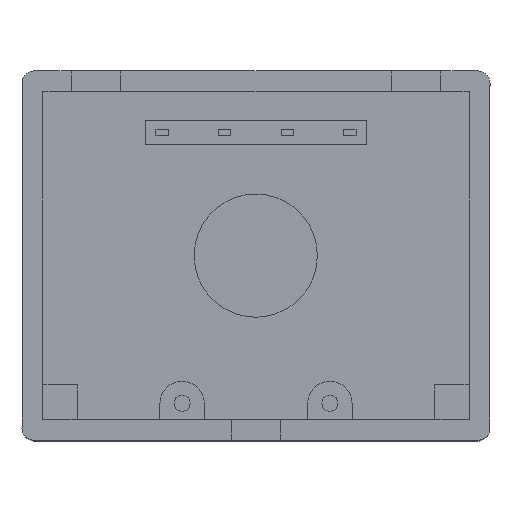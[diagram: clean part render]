
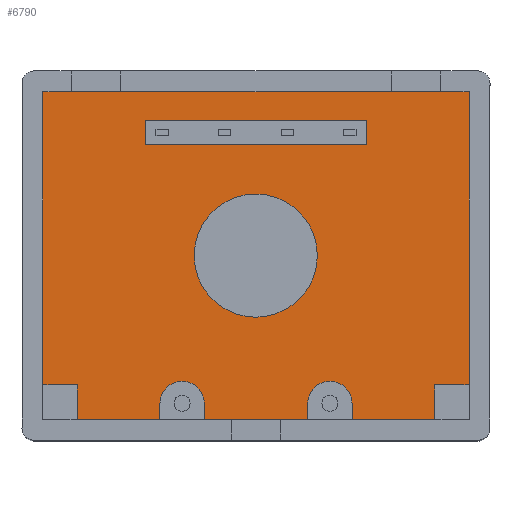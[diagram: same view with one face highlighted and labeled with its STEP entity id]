
A CAD part, top view. The second image highlights one B-rep face of the part: STEP entity #6790.
In plain terms, the highlighted planar face has unit normal (0, 0, 1).
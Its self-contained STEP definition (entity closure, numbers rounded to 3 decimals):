
#120=CARTESIAN_POINT('',(7.4,1.396,19.));
#130=VERTEX_POINT('',#120);
#290=CARTESIAN_POINT('',(5.6,1.396,19.));
#300=VERTEX_POINT('',#290);
#330=CARTESIAN_POINT('',(6.5,1.396,19.));
#340=DIRECTION('',(0.,0.,1.));
#350=DIRECTION('',(1.,0.,0.));
#360=AXIS2_PLACEMENT_3D('',#330,#340,#350);
#370=CIRCLE('',#360,0.9);
#380=EDGE_CURVE('',#130,#300,#370,.T.);
#3560=CARTESIAN_POINT('',(7.4,0.746,19.));
#3570=VERTEX_POINT('',#3560);
#3690=CARTESIAN_POINT('',(7.4,0.,19.));
#3700=DIRECTION('',(-0.,-1.,0.));
#3710=VECTOR('',#3700,1.);
#3720=LINE('',#3690,#3710);
#3730=EDGE_CURVE('',#130,#3570,#3720,.T.);
#3940=CARTESIAN_POINT('',(5.,12.896,19.));
#3950=VERTEX_POINT('',#3940);
#4120=CARTESIAN_POINT('',(5.,11.896,19.));
#4130=VERTEX_POINT('',#4120);
#4160=CARTESIAN_POINT('',(5.,0.,19.));
#4170=DIRECTION('',(0.,1.,0.));
#4180=VECTOR('',#4170,1.);
#4190=LINE('',#4160,#4180);
#4200=EDGE_CURVE('',#4130,#3950,#4190,.T.);
#5190=CARTESIAN_POINT('',(0.74,0.76,19.));
#5200=DIRECTION('',(0.,0.,1.));
#5210=DIRECTION('',(-1.,0.,0.));
#5220=AXIS2_PLACEMENT_3D('',#5190,#5200,#5210);
#5230=PLANE('',#5220);
#5240=CARTESIAN_POINT('',(9.49,7.396,19.));
#5250=DIRECTION('',(0.,0.,-1.));
#5260=DIRECTION('',(1.,0.,0.));
#5270=AXIS2_PLACEMENT_3D('',#5240,#5250,#5260);
#5280=CIRCLE('',#5270,2.5);
#5290=CARTESIAN_POINT('',(11.99,7.396,19.));
#5300=VERTEX_POINT('',#5290);
#5310=CARTESIAN_POINT('',(6.99,7.396,19.));
#5320=VERTEX_POINT('',#5310);
#5330=EDGE_CURVE('',#5300,#5320,#5280,.T.);
#5340=ORIENTED_EDGE('',*,*,#5330,.T.);
#5350=EDGE_CURVE('',#5320,#5300,#5280,.T.);
#5360=ORIENTED_EDGE('',*,*,#5350,.T.);
#5370=EDGE_LOOP('',(#5360,#5340));
#5380=FACE_BOUND('',#5370,.T.);
#5390=CARTESIAN_POINT('',(0.,12.896,19.));
#5400=DIRECTION('',(1.,0.,0.));
#5410=VECTOR('',#5400,1.);
#5420=LINE('',#5390,#5410);
#5430=CARTESIAN_POINT('',(14.,12.896,19.));
#5440=VERTEX_POINT('',#5430);
#5450=EDGE_CURVE('',#3950,#5440,#5420,.T.);
#5460=ORIENTED_EDGE('',*,*,#5450,.T.);
#5470=ORIENTED_EDGE('',*,*,#4200,.T.);
#5480=CARTESIAN_POINT('',(0.,11.896,19.));
#5490=DIRECTION('',(-1.,0.,0.));
#5500=VECTOR('',#5490,1.);
#5510=LINE('',#5480,#5500);
#5520=CARTESIAN_POINT('',(14.,11.896,19.));
#5530=VERTEX_POINT('',#5520);
#5540=EDGE_CURVE('',#5530,#4130,#5510,.T.);
#5550=ORIENTED_EDGE('',*,*,#5540,.T.);
#5560=CARTESIAN_POINT('',(14.,0.,19.));
#5570=DIRECTION('',(0.,-1.,0.));
#5580=VECTOR('',#5570,1.);
#5590=LINE('',#5560,#5580);
#5600=EDGE_CURVE('',#5440,#5530,#5590,.T.);
#5610=ORIENTED_EDGE('',*,*,#5600,.T.);
#5620=EDGE_LOOP('',(#5610,#5550,#5470,#5460));
#5630=FACE_BOUND('',#5620,.T.);
#5640=CARTESIAN_POINT('',(18.15,0.,19.));
#5650=DIRECTION('',(0.,-1.,0.));
#5660=VECTOR('',#5650,1.);
#5670=LINE('',#5640,#5660);
#5680=CARTESIAN_POINT('',(18.15,14.046,19.));
#5690=VERTEX_POINT('',#5680);
#5700=CARTESIAN_POINT('',(18.15,2.146,19.));
#5710=VERTEX_POINT('',#5700);
#5720=EDGE_CURVE('',#5690,#5710,#5670,.T.);
#5730=ORIENTED_EDGE('',*,*,#5720,.F.);
#5740=CARTESIAN_POINT('',(0.,2.146,19.));
#5750=DIRECTION('',(1.,0.,0.));
#5760=VECTOR('',#5750,1.);
#5770=LINE('',#5740,#5760);
#5780=CARTESIAN_POINT('',(16.75,2.146,19.));
#5790=VERTEX_POINT('',#5780);
#5800=EDGE_CURVE('',#5790,#5710,#5770,.T.);
#5810=ORIENTED_EDGE('',*,*,#5800,.T.);
#5820=CARTESIAN_POINT('',(16.75,0.,19.));
#5830=DIRECTION('',(0.,-1.,0.));
#5840=VECTOR('',#5830,1.);
#5850=LINE('',#5820,#5840);
#5860=CARTESIAN_POINT('',(16.75,0.746,19.));
#5870=VERTEX_POINT('',#5860);
#5880=EDGE_CURVE('',#5790,#5870,#5850,.T.);
#5890=ORIENTED_EDGE('',*,*,#5880,.F.);
#5900=CARTESIAN_POINT('',(0.,0.746,19.));
#5910=DIRECTION('',(1.,0.,0.));
#5920=VECTOR('',#5910,1.);
#5930=LINE('',#5900,#5920);
#5940=CARTESIAN_POINT('',(13.4,0.746,19.));
#5950=VERTEX_POINT('',#5940);
#5960=EDGE_CURVE('',#5950,#5870,#5930,.T.);
#5970=ORIENTED_EDGE('',*,*,#5960,.T.);
#5980=CARTESIAN_POINT('',(13.4,0.,19.));
#5990=DIRECTION('',(-0.,-1.,0.));
#6000=VECTOR('',#5990,1.);
#6010=LINE('',#5980,#6000);
#6020=CARTESIAN_POINT('',(13.4,1.396,19.));
#6030=VERTEX_POINT('',#6020);
#6040=EDGE_CURVE('',#6030,#5950,#6010,.T.);
#6050=ORIENTED_EDGE('',*,*,#6040,.T.);
#6060=CARTESIAN_POINT('',(12.5,1.396,19.));
#6070=DIRECTION('',(0.,0.,1.));
#6080=DIRECTION('',(1.,0.,0.));
#6090=AXIS2_PLACEMENT_3D('',#6060,#6070,#6080);
#6100=CIRCLE('',#6090,0.9);
#6110=CARTESIAN_POINT('',(11.6,1.396,19.));
#6120=VERTEX_POINT('',#6110);
#6130=EDGE_CURVE('',#6030,#6120,#6100,.T.);
#6140=ORIENTED_EDGE('',*,*,#6130,.F.);
#6150=CARTESIAN_POINT('',(11.6,0.,19.));
#6160=DIRECTION('',(-0.,1.,0.));
#6170=VECTOR('',#6160,1.);
#6180=LINE('',#6150,#6170);
#6190=CARTESIAN_POINT('',(11.6,0.746,19.));
#6200=VERTEX_POINT('',#6190);
#6210=EDGE_CURVE('',#6200,#6120,#6180,.T.);
#6220=ORIENTED_EDGE('',*,*,#6210,.T.);
#6230=CARTESIAN_POINT('',(0.,0.746,19.));
#6240=DIRECTION('',(1.,0.,0.));
#6250=VECTOR('',#6240,1.);
#6260=LINE('',#6230,#6250);
#6270=EDGE_CURVE('',#3570,#6200,#6260,.T.);
#6280=ORIENTED_EDGE('',*,*,#6270,.T.);
#6290=ORIENTED_EDGE('',*,*,#3730,.T.);
#6300=ORIENTED_EDGE('',*,*,#380,.F.);
#6310=CARTESIAN_POINT('',(5.6,0.,19.));
#6320=DIRECTION('',(-0.,1.,0.));
#6330=VECTOR('',#6320,1.);
#6340=LINE('',#6310,#6330);
#6350=CARTESIAN_POINT('',(5.6,0.746,19.));
#6360=VERTEX_POINT('',#6350);
#6370=EDGE_CURVE('',#6360,#300,#6340,.T.);
#6380=ORIENTED_EDGE('',*,*,#6370,.T.);
#6390=CARTESIAN_POINT('',(0.,0.746,19.));
#6400=DIRECTION('',(1.,0.,0.));
#6410=VECTOR('',#6400,1.);
#6420=LINE('',#6390,#6410);
#6430=CARTESIAN_POINT('',(2.25,0.746,19.));
#6440=VERTEX_POINT('',#6430);
#6450=EDGE_CURVE('',#6440,#6360,#6420,.T.);
#6460=ORIENTED_EDGE('',*,*,#6450,.T.);
#6470=CARTESIAN_POINT('',(2.25,0.,19.));
#6480=DIRECTION('',(0.,1.,0.));
#6490=VECTOR('',#6480,1.);
#6500=LINE('',#6470,#6490);
#6510=CARTESIAN_POINT('',(2.25,2.146,19.));
#6520=VERTEX_POINT('',#6510);
#6530=EDGE_CURVE('',#6440,#6520,#6500,.T.);
#6540=ORIENTED_EDGE('',*,*,#6530,.F.);
#6550=CARTESIAN_POINT('',(0.,2.146,19.));
#6560=DIRECTION('',(1.,0.,0.));
#6570=VECTOR('',#6560,1.);
#6580=LINE('',#6550,#6570);
#6590=CARTESIAN_POINT('',(0.85,2.146,19.));
#6600=VERTEX_POINT('',#6590);
#6610=EDGE_CURVE('',#6600,#6520,#6580,.T.);
#6620=ORIENTED_EDGE('',*,*,#6610,.T.);
#6630=CARTESIAN_POINT('',(0.85,0.,19.));
#6640=DIRECTION('',(0.,1.,0.));
#6650=VECTOR('',#6640,1.);
#6660=LINE('',#6630,#6650);
#6670=CARTESIAN_POINT('',(0.85,14.046,19.));
#6680=VERTEX_POINT('',#6670);
#6690=EDGE_CURVE('',#6600,#6680,#6660,.T.);
#6700=ORIENTED_EDGE('',*,*,#6690,.F.);
#6710=CARTESIAN_POINT('',(0.,14.046,19.));
#6720=DIRECTION('',(1.,0.,0.));
#6730=VECTOR('',#6720,1.);
#6740=LINE('',#6710,#6730);
#6750=EDGE_CURVE('',#6680,#5690,#6740,.T.);
#6760=ORIENTED_EDGE('',*,*,#6750,.F.);
#6770=EDGE_LOOP('',(#6760,#6700,#6620,#6540,#6460,#6380,#6300,#6290,
#6280,#6220,#6140,#6050,#5970,#5890,#5810,#5730));
#6780=FACE_OUTER_BOUND('',#6770,.T.);
#6790=ADVANCED_FACE('',(#5380,#5630,#6780),#5230,.T.);
